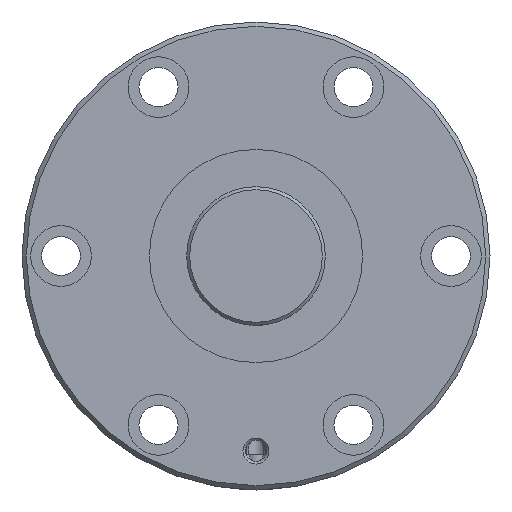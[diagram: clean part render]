
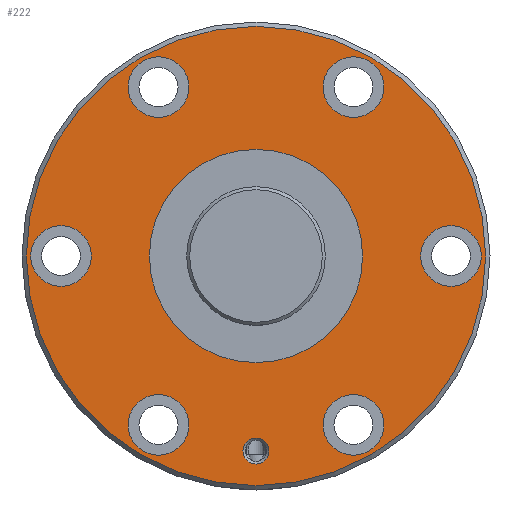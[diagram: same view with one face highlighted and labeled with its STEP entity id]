
A CAD part, left-side view. The second image highlights one B-rep face of the part: STEP entity #222.
In plain terms, the highlighted planar face has unit normal (-1, 0, 0).
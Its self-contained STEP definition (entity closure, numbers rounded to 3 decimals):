
#222 = ADVANCED_FACE( '', ( #386, #387, #388, #389, #390, #391, #392, #393, #394 ), #395, .T. );
#386 = FACE_BOUND( '', #613, .T. );
#387 = FACE_BOUND( '', #614, .T. );
#388 = FACE_BOUND( '', #615, .T. );
#389 = FACE_BOUND( '', #616, .T. );
#390 = FACE_BOUND( '', #617, .T. );
#391 = FACE_BOUND( '', #618, .T. );
#392 = FACE_BOUND( '', #619, .T. );
#393 = FACE_BOUND( '', #620, .T. );
#394 = FACE_OUTER_BOUND( '', #621, .T. );
#395 = PLANE( '', #622 );
#613 = EDGE_LOOP( '', ( #1086 ) );
#614 = EDGE_LOOP( '', ( #1087 ) );
#615 = EDGE_LOOP( '', ( #1088 ) );
#616 = EDGE_LOOP( '', ( #1089 ) );
#617 = EDGE_LOOP( '', ( #1090 ) );
#618 = EDGE_LOOP( '', ( #1091 ) );
#619 = EDGE_LOOP( '', ( #1092 ) );
#620 = EDGE_LOOP( '', ( #1093 ) );
#621 = EDGE_LOOP( '', ( #1094 ) );
#622 = AXIS2_PLACEMENT_3D( '', #1095, #1096, #1097 );
#1086 = ORIENTED_EDGE( '', *, *, #1366, .T. );
#1087 = ORIENTED_EDGE( '', *, *, #1367, .T. );
#1088 = ORIENTED_EDGE( '', *, *, #1273, .T. );
#1089 = ORIENTED_EDGE( '', *, *, #1365, .T. );
#1090 = ORIENTED_EDGE( '', *, *, #1368, .T. );
#1091 = ORIENTED_EDGE( '', *, *, #1369, .T. );
#1092 = ORIENTED_EDGE( '', *, *, #1370, .T. );
#1093 = ORIENTED_EDGE( '', *, *, #1371, .T. );
#1094 = ORIENTED_EDGE( '', *, *, #1372, .F. );
#1095 = CARTESIAN_POINT( '', ( 0., 53., 0. ) );
#1096 = DIRECTION( '', ( -1., 0., 0. ) );
#1097 = DIRECTION( '', ( 0., 0., 1. ) );
#1273 = EDGE_CURVE( '', #1443, #1443, #1444, .T. );
#1365 = EDGE_CURVE( '', #1601, #1601, #1602, .T. );
#1366 = EDGE_CURVE( '', #1603, #1603, #1604, .T. );
#1367 = EDGE_CURVE( '', #1605, #1605, #1606, .F. );
#1368 = EDGE_CURVE( '', #1607, #1607, #1608, .T. );
#1369 = EDGE_CURVE( '', #1609, #1609, #1610, .T. );
#1370 = EDGE_CURVE( '', #1611, #1611, #1612, .T. );
#1371 = EDGE_CURVE( '', #1613, #1613, #1614, .T. );
#1372 = EDGE_CURVE( '', #1615, #1615, #1616, .T. );
#1443 = VERTEX_POINT( '', #1824 );
#1444 = CIRCLE( '', #1825, 3. );
#1601 = VERTEX_POINT( '', #2438 );
#1602 = CIRCLE( '', #2439, 7. );
#1603 = VERTEX_POINT( '', #2440 );
#1604 = CIRCLE( '', #2441, 24.6 );
#1605 = VERTEX_POINT( '', #2442 );
#1606 = CIRCLE( '', #2443, 7. );
#1607 = VERTEX_POINT( '', #2444 );
#1608 = CIRCLE( '', #2445, 7. );
#1609 = VERTEX_POINT( '', #2446 );
#1610 = CIRCLE( '', #2447, 7. );
#1611 = VERTEX_POINT( '', #2448 );
#1612 = CIRCLE( '', #2449, 7. );
#1613 = VERTEX_POINT( '', #2450 );
#1614 = CIRCLE( '', #2451, 7. );
#1615 = VERTEX_POINT( '', #2452 );
#1616 = CIRCLE( '', #2453, 53. );
#1824 = CARTESIAN_POINT( '', ( 0., 0., -48. ) );
#1825 = AXIS2_PLACEMENT_3D( '', #2609, #2610, #2611 );
#2438 = CARTESIAN_POINT( '', ( 0., 22.5, 31.971 ) );
#2439 = AXIS2_PLACEMENT_3D( '', #2765, #2766, #2767 );
#2440 = CARTESIAN_POINT( '', ( 0., 0., -24.6 ) );
#2441 = AXIS2_PLACEMENT_3D( '', #2768, #2769, #2770 );
#2442 = CARTESIAN_POINT( '', ( 0., 45., 7. ) );
#2443 = AXIS2_PLACEMENT_3D( '', #2771, #2772, #2773 );
#2444 = CARTESIAN_POINT( '', ( 0., -22.5, -45.971 ) );
#2445 = AXIS2_PLACEMENT_3D( '', #2774, #2775, #2776 );
#2446 = CARTESIAN_POINT( '', ( 0., -22.5, 31.971 ) );
#2447 = AXIS2_PLACEMENT_3D( '', #2777, #2778, #2779 );
#2448 = CARTESIAN_POINT( '', ( 0., 22.5, -45.971 ) );
#2449 = AXIS2_PLACEMENT_3D( '', #2780, #2781, #2782 );
#2450 = CARTESIAN_POINT( '', ( 0., -45., -7. ) );
#2451 = AXIS2_PLACEMENT_3D( '', #2783, #2784, #2785 );
#2452 = CARTESIAN_POINT( '', ( 0., 0., -53. ) );
#2453 = AXIS2_PLACEMENT_3D( '', #2786, #2787, #2788 );
#2609 = CARTESIAN_POINT( '', ( 0., 0., -45. ) );
#2610 = DIRECTION( '', ( 1., 0., 0. ) );
#2611 = DIRECTION( '', ( 0., 0., -1. ) );
#2765 = CARTESIAN_POINT( '', ( 0., 22.5, 38.971 ) );
#2766 = DIRECTION( '', ( 1., 0., 0. ) );
#2767 = DIRECTION( '', ( 0., 0., -1. ) );
#2768 = CARTESIAN_POINT( '', ( 0., 0., 0. ) );
#2769 = DIRECTION( '', ( 1., 0., 0. ) );
#2770 = DIRECTION( '', ( 0., 0., -1. ) );
#2771 = CARTESIAN_POINT( '', ( 0., 45., 0. ) );
#2772 = DIRECTION( '', ( -1., 0., 0. ) );
#2773 = DIRECTION( '', ( 0., 0., 1. ) );
#2774 = CARTESIAN_POINT( '', ( 0., -22.5, -38.971 ) );
#2775 = DIRECTION( '', ( 1., 0., 0. ) );
#2776 = DIRECTION( '', ( 0., 0., -1. ) );
#2777 = CARTESIAN_POINT( '', ( 0., -22.5, 38.971 ) );
#2778 = DIRECTION( '', ( 1., 0., 0. ) );
#2779 = DIRECTION( '', ( 0., 0., -1. ) );
#2780 = CARTESIAN_POINT( '', ( 0., 22.5, -38.971 ) );
#2781 = DIRECTION( '', ( 1., 0., 0. ) );
#2782 = DIRECTION( '', ( 0., 0., -1. ) );
#2783 = CARTESIAN_POINT( '', ( 0., -45., 0. ) );
#2784 = DIRECTION( '', ( 1., 0., 0. ) );
#2785 = DIRECTION( '', ( 0., 0., -1. ) );
#2786 = CARTESIAN_POINT( '', ( 0., 0., 0. ) );
#2787 = DIRECTION( '', ( 1., 0., 0. ) );
#2788 = DIRECTION( '', ( 0., 0., -1. ) );
